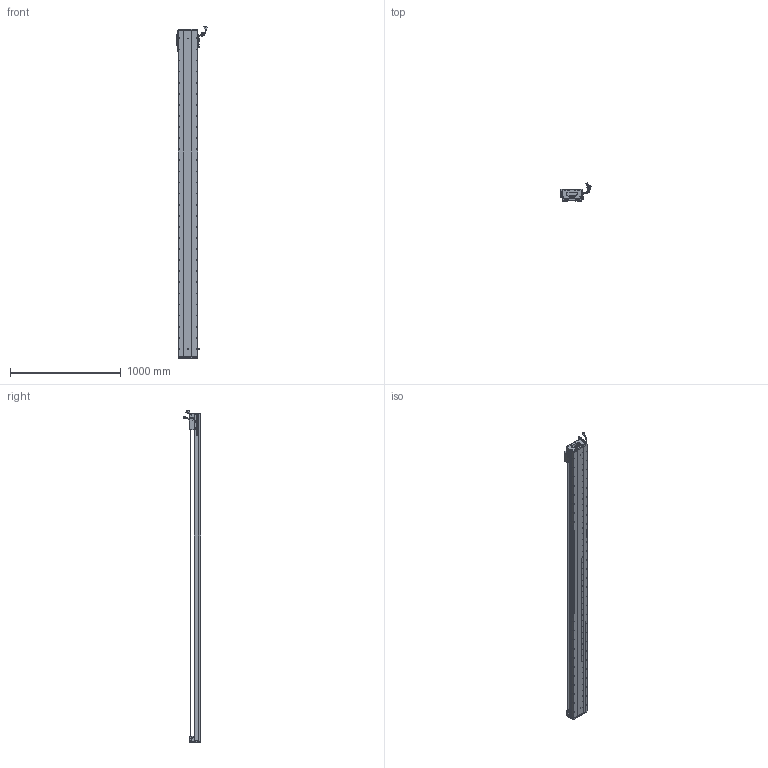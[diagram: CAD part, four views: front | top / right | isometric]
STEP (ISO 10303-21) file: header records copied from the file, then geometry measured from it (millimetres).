
FILE_DESCRIPTION (( 'STEP AP203' ), '1' );
FILE_NAME ('Z1-RY170D-1-L500-B-K.SLDASM_2750.step', '2021-05-17T08:56:42', ( '盈信电脑' ), ( '东莞市道滘镇水果街19号' ), 'SwSTEP 2.0', 'SolidWorks 2016', '' );
FILE_SCHEMA (( 'CONFIG_CONTROL_DESIGN' ));
Length unit declared in the file: millimetre
Products named in the file (36): SCREW-M1.7; 170-Z-臏賑輸盄裔(21遴); SCREW-M1.6-2; HARNESS-Part-2; SCREW-M1.6; 榋妏寠巭燃_暯_M2_2; PBU_SHEET; SEAL; 140蚥薯蝶輸; LABEL; Z-RY170詩湍奻揤裔; SCALE; Z-170詩湍傷裔啣; 140雄赽晤鎢ん堤盄; PSLH080_PSLF2; COVER-Part-1; SCALE-Part-1; Z-RY170詩湍狟揤裔; 080黍杅芛假蚾釱21遴; SCALE-Part-2; 覜茼ん672; Z1-RY170臏賑輸(21遴); HOLDER0; SCREW-M1.6-3; HARNESS-Part-1; COVER; HARNESS; SHIELDPLATE; LABEL-Part-1; Z1-RY170-L500詩湍145mm遵_2750; SCREW-M1.6-1; SEAL-Part-1; Z1-RY170-L500耀郪菁釱_2750; Z1-RY170D-1-L500-B-K.SLDASM_2750; RY170直线电机感应器672光电感应片; SCREW-M1.7-1
Assembly tree (41 placements, depth 4):
  Z1-RY170D-1-L500-B-K.SLDASM_2750
    Z1-RY170-L500耀郪菁釱_2750
    RY170直线电机感应器672光电感应片
    Z1-RY170臏賑輸(21遴)
    覜茼ん672  x3
    PSLH080_PSLF2
      SCALE
        SCALE-Part-1
        SCALE-Part-2
      HARNESS
        HARNESS-Part-1
        HARNESS-Part-2
      LABEL
        LABEL-Part-1
      COVER
        COVER-Part-1
      SEAL
        SEAL-Part-1
      榋妏寠巭燃_暯_M2_2
      SHIELDPLATE
      SCREW-M1.7
      SCREW-M1.7-1
      PBU_SHEET
      SCREW-M1.6
      SCREW-M1.6-1
      SCREW-M1.6-2
      SCREW-M1.6-3
      HOLDER0
    080黍杅芛假蚾釱21遴
    Z1-RY170-L500詩湍145mm遵_2750
    Z-170詩湍傷裔啣  x2
    Z-RY170詩湍奻揤裔  x2
    Z-RY170詩湍狟揤裔  x2
    140蚥薯蝶輸  x2
    170-Z-臏賑輸盄裔(21遴)
    140雄赽晤鎢ん堤盄
Bounding box: 275.29 x 158.11 x 2993.72 mm (x, y, z)
Volume: 14166332.5 mm3; surface area: 3545727.8 mm2
Topology: 36 solids, 36 shells, 4194 faces, 11721 edges, 7317 vertices
Faces by surface type: cylinder 2148, plane 1328, cone 596, torus 69, bspline 53
Entity records: 133793 total; most frequent: CARTESIAN_POINT 38254, ORIENTED_EDGE 19822, DIRECTION 18207, EDGE_CURVE 9911, AXIS2_PLACEMENT_3D 6700, VERTEX_POINT 6435, VECTOR 4807, LINE 4807
